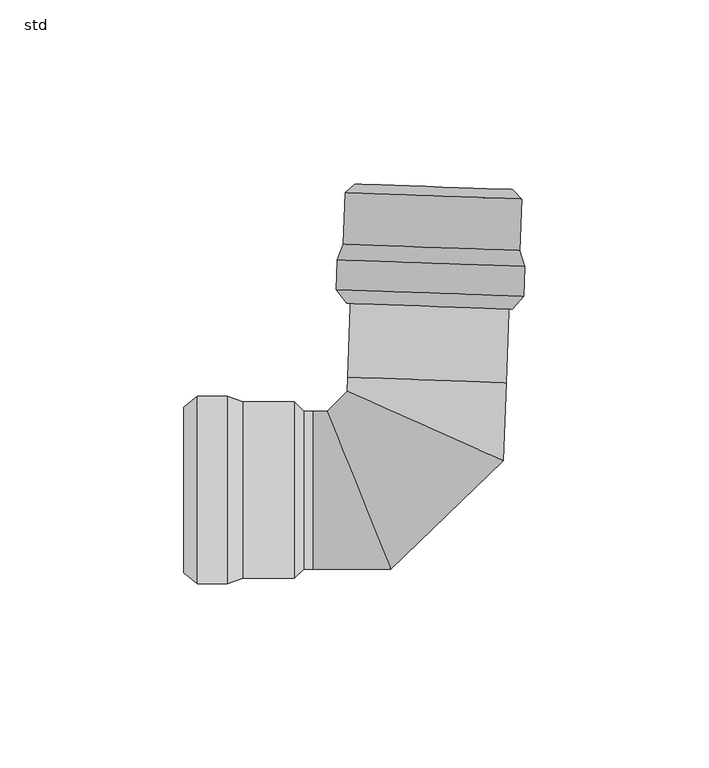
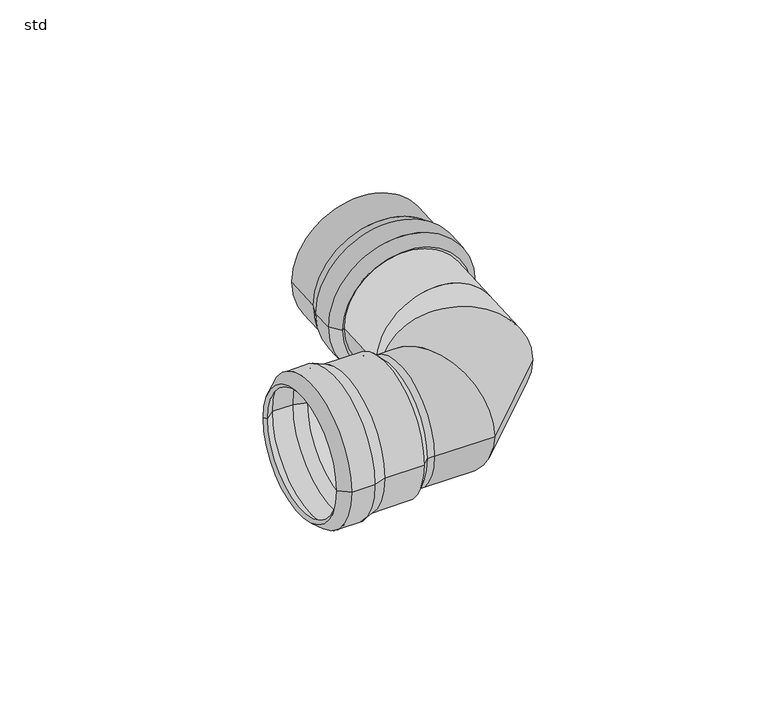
"""IFC4 building model written with IfcOpenShell, lengths in millimetres: pipe fitting geometry, PIF_ST_UN_GM-X angle bend 1a push socket_ACO : std."""

from ifc_helpers import new_model, si_unit, frame, origin, place, context, project, spatial, polyline, circle_curve, ellipse_curve, source, transform, mapped, element, save
from ifc_brep_helpers import plane_surface, cylinder_surface, revolved_surface, advanced_brep


def std_ca759118(model_context):
    return source(origin(), model_context, "Body", "AdvancedBrep", [
        advanced_brep(
        [(27.6425741, 60.7702896, 0.0), (-23.3262171, 62.5541973, 0.0), (-23.6074449, 54.5191173, 0.0), (27.3613463, 52.7352096, 0.0), (26.2938999, 65.1201261, 0.0), (-21.6767271, 66.7990981, 0.0), (-20.7373023, 50.7564212, 0.0), (24.2351605, 49.182385, 0.0), (26.7836001, 79.111559, 0.0), (-21.1870269, 80.7905309, 0.0), (24.3725764, 81.6974756, 0.0), (-18.6011103, 83.2015546, 0.0), (24.2851299, 79.1990055, 0.0), (-18.6885568, 80.7030845, 0.0), (24.7859291, 64.9186305, 0.0), (-20.1865337, 66.4926667, 0.0), (-19.6879448, 80.7380631, 0.0), (25.284518, 79.1640269, 0.0), (26.1346033, 60.568794, 0.0), (-21.8360237, 62.2477659, 0.0), (25.8810197, 53.3235488, 0.0), (-22.0896073, 55.0025208, 0.0), (23.1090431, 50.1732733, 0.0), (-19.5446632, 51.666153, 0.0)],
        [
            (0, 1, circle_curve(frame((2.1581785, 61.6622434, 0.0), z_axis=(-0.034978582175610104, -0.9993880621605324, 0.0), x_axis=(-0.9993880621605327, 0.03497858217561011, 0.0)), 25.5)),
            (1, 2),
            (2, 3, circle_curve(frame((1.8769507, 53.6271634, 0.0), z_axis=(0.034978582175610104, 0.9993880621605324, 0.0), x_axis=(-0.9993880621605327, 0.03497858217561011, 0.0)), 25.5)),
            (3, 0),
            (1, 0, circle_curve(frame((2.1581785, 61.6622434, 0.0), z_axis=(-0.034978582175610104, -0.9993880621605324, 0.0), x_axis=(-0.9993880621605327, 0.03497858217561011, 0.0)), 25.5)),
            (3, 2, circle_curve(frame((1.8769507, 53.6271634, 0.0), z_axis=(0.034978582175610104, 0.9993880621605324, 0.0), x_axis=(-0.9993880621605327, 0.03497858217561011, 0.0)), 25.5)),
            (4, 5, circle_curve(frame((2.3085864, 65.9596121, 0.0), z_axis=(-0.034978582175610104, -0.9993880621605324, 0.0), x_axis=(-0.9993880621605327, 0.03497858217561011, 0.0)), 24.0)),
            (5, 1),
            (0, 4),
            (5, 4, circle_curve(frame((2.3085864, 65.9596121, 0.0), z_axis=(-0.034978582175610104, -0.9993880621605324, 0.0), x_axis=(-0.9993880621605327, 0.03497858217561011, 0.0)), 24.0)),
            (2, 6),
            (6, 7, circle_curve(frame((1.7489291, 49.9694031, 0.0), z_axis=(0.034978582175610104, 0.9993880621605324, 0.0), x_axis=(-0.9993880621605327, 0.03497858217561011, 0.0)), 22.5)),
            (7, 3),
            (7, 6, circle_curve(frame((1.7489291, 49.9694031, 0.0), z_axis=(0.034978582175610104, 0.9993880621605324, 0.0), x_axis=(-0.9993880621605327, 0.03497858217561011, 0.0)), 22.5)),
            (8, 9, circle_curve(frame((2.7982866, 79.951045, 0.0), z_axis=(-0.034978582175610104, -0.9993880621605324, 0.0), x_axis=(-0.9993880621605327, 0.03497858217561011, 0.0)), 24.0)),
            (9, 5),
            (4, 8),
            (9, 8, circle_curve(frame((2.7982866, 79.951045, 0.0), z_axis=(-0.034978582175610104, -0.9993880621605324, 0.0), x_axis=(-0.9993880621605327, 0.03497858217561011, 0.0)), 24.0)),
            (10, 11, circle_curve(frame((2.885733, 82.4495151, 0.0), z_axis=(-0.034978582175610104, -0.9993880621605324, 0.0), x_axis=(-0.9993880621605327, 0.03497858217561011, 0.0)), 21.5)),
            (11, 9),
            (8, 10),
            (11, 10, circle_curve(frame((2.885733, 82.4495151, 0.0), z_axis=(-0.034978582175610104, -0.9993880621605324, 0.0), x_axis=(-0.9993880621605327, 0.03497858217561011, 0.0)), 21.5)),
            (12, 13, circle_curve(frame((2.7982866, 79.951045, 0.0), z_axis=(-0.034978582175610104, -0.9993880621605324, 0.0), x_axis=(-0.9993880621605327, 0.03497858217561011, 0.0)), 21.5)),
            (13, 11),
            (10, 12),
            (13, 12, circle_curve(frame((2.7982866, 79.951045, 0.0), z_axis=(-0.034978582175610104, -0.9993880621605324, 0.0), x_axis=(-0.9993880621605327, 0.03497858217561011, 0.0)), 21.5)),
            (14, 15, circle_curve(frame((2.2996977, 65.7056486, 0.0), z_axis=(-0.034978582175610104, -0.9993880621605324, 0.0), x_axis=(-0.9993880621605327, 0.03497858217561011, 0.0)), 22.5)),
            (15, 16),
            (16, 17, circle_curve(frame((2.7982866, 79.951045, 0.0), z_axis=(0.034978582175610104, 0.9993880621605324, 0.0), x_axis=(-0.9993880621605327, 0.03497858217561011, 0.0)), 22.5)),
            (17, 14),
            (15, 14, circle_curve(frame((2.2996977, 65.7056486, 0.0), z_axis=(-0.034978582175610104, -0.9993880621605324, 0.0), x_axis=(-0.9993880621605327, 0.03497858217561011, 0.0)), 22.5)),
            (17, 16, circle_curve(frame((2.7982866, 79.951045, 0.0), z_axis=(0.034978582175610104, 0.9993880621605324, 0.0), x_axis=(-0.9993880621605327, 0.03497858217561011, 0.0)), 22.5)),
            (18, 19, circle_curve(frame((2.1492898, 61.4082799, 0.0), z_axis=(-0.034978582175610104, -0.9993880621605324, 0.0), x_axis=(-0.9993880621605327, 0.03497858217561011, 0.0)), 24.0)),
            (19, 15),
            (14, 18),
            (19, 18, circle_curve(frame((2.1492898, 61.4082799, 0.0), z_axis=(-0.034978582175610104, -0.9993880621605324, 0.0), x_axis=(-0.9993880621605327, 0.03497858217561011, 0.0)), 24.0)),
            (20, 21, circle_curve(frame((1.8957062, 54.1630348, 0.0), z_axis=(-0.034978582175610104, -0.9993880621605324, 0.0), x_axis=(-0.9993880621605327, 0.03497858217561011, 0.0)), 24.0)),
            (21, 19),
            (18, 20),
            (21, 20, circle_curve(frame((1.8957062, 54.1630348, 0.0), z_axis=(-0.034978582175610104, -0.9993880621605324, 0.0), x_axis=(-0.9993880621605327, 0.03497858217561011, 0.0)), 24.0)),
            (22, 23, circle_curve(frame((1.78219, 50.9197132, 0.0), z_axis=(-0.034978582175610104, -0.9993880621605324, 0.0), x_axis=(-0.9993880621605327, 0.03497858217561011, 0.0)), 21.3399118)),
            (23, 21),
            (20, 22),
            (23, 22, circle_curve(frame((1.78219, 50.9197132, 0.0), z_axis=(-0.034978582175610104, -0.9993880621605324, 0.0), x_axis=(-0.9993880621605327, 0.03497858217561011, 0.0)), 21.3399118)),
            (6, 23),
            (22, 7),
            (16, 13),
            (12, 17),
        ],
        [
            cylinder_surface(frame((1.8663028, 53.322938, 0.0), z_axis=(0.034978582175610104, 0.9993880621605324, 0.0), x_axis=(-0.9993880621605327, 0.03497858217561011, 0.0)), 25.5),
            revolved_surface(polyline([(-23.3262171, 62.5541973, 0.0), (-21.6767271, 66.7990981, 0.0)]), (1.8663028, 53.322938, 0.0), (0.034978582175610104, 0.9993880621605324, 0.0)),
            revolved_surface(polyline([(-20.7373023, 50.7564212, 0.0), (-23.6074449, 54.5191173, 0.0)]), (1.8663028, 53.322938, 0.0), (0.034978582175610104, 0.9993880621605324, 0.0)),
            cylinder_surface(frame((1.8663028, 53.322938, 0.0), z_axis=(0.034978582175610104, 0.9993880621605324, 0.0), x_axis=(-0.9993880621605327, 0.03497858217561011, 0.0)), 24.0),
            revolved_surface(polyline([(-21.1870269, 80.7905309, 0.0), (-18.6011103, 83.2015546, 0.0)]), (1.8663028, 53.322938, 0.0), (0.034978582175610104, 0.9993880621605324, 0.0)),
            revolved_surface(polyline([(-18.601110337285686, 83.20155463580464, 0.0), (-18.68855679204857, 80.70308449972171, 0.0)]), (1.8663028, 53.322938, 0.0), (0.034978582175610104, 0.9993880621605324, 0.0)),
            revolved_surface(polyline([(-19.687944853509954, 80.73806310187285, 0.0), (-20.18653372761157, 66.49266669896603, 0.0)]), (1.8663028, 53.322938, 0.0), (0.034978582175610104, 0.9993880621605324, 0.0)),
            revolved_surface(polyline([(-20.1865337, 66.4926667, 0.0), (-21.8360237, 62.2477659, 0.0)]), (1.8663028, 53.322938, 0.0), (0.034978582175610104, 0.9993880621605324, 0.0)),
            revolved_surface(polyline([(-21.83602372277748, 62.2477659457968, 0.0), (-22.08960730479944, 55.002520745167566, 0.0)]), (1.8663028, 53.322938, 0.0), (0.034978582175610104, 0.9993880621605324, 0.0)),
            revolved_surface(polyline([(-22.0896073, 55.0025208, 0.0), (-19.5446632, 51.666153, 0.0)]), (1.8663028, 53.322938, 0.0), (0.034978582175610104, 0.9993880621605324, 0.0)),
            revolved_surface(polyline([(-19.5446632, 51.666153, 0.0), (-20.7373023, 50.7564212, 0.0)]), (1.8663028, 53.322938, 0.0), (0.034978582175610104, 0.9993880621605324, 0.0)),
            plane_surface(frame((2.7982866, 79.951045, 0.0), z_axis=(-0.034978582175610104, -0.9993880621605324, 0.0), x_axis=(-0.9993880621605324, 0.034978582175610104, 0.0))),
        ],
        [
            (0, [[1, 2, 3, 4]]),
            (0, [[5, -4, 6, -2]]),
            (1, [[7, 8, -1, 9]]),
            (1, [[10, -9, -5, -8]]),
            (2, [[-3, 11, 12, 13]]),
            (2, [[-6, -13, 14, -11]]),
            (3, [[15, 16, -7, 17]]),
            (3, [[18, -17, -10, -16]]),
            (4, [[19, 20, -15, 21]]),
            (4, [[22, -21, -18, -20]]),
            (5, [[23, 24, -19, 25]]),
            (5, [[26, -25, -22, -24]]),
            (6, [[27, 28, 29, 30]]),
            (6, [[31, -30, 32, -28]]),
            (7, [[33, 34, -27, 35]]),
            (7, [[36, -35, -31, -34]]),
            (8, [[37, 38, -33, 39]]),
            (8, [[40, -39, -36, -38]]),
            (9, [[41, 42, -37, 43]]),
            (9, [[44, -43, -40, -42]]),
            (10, [[-12, 45, -41, 46]]),
            (10, [[-14, -46, -44, -45]]),
            (11, [[-29, 47, -23, 48]]),
            (11, [[-32, -48, -26, -47]]),
        ],
    ),
        advanced_brep(
        [(-53.3, 25.5, 0.0), (-53.3, -25.5, 0.0), (-61.34, -25.5, 0.0), (-61.34, 25.5, 0.0), (-49.0, 24.0, 0.0), (-49.0, -24.0, 0.0), (-65.0, -22.5, 0.0), (-65.0, 22.5, 0.0), (-35.0, 24.0, 0.0), (-35.0, -24.0, 0.0), (-32.5, 21.5, 0.0), (-32.5, -21.5, 0.0), (-35.0, 21.5, 0.0), (-35.0, -21.5, 0.0), (-49.254119, 22.5, 0.0), (-49.254119, -22.5, 0.0), (-35.0, -22.5, 0.0), (-35.0, 22.5, 0.0), (-53.554119, 24.0, 0.0), (-53.554119, -24.0, 0.0), (-60.8038005, 24.0, 0.0), (-60.8038005, -24.0, 0.0), (-64.0491081, 21.3399118, 0.0), (-64.0491081, -21.3399118, 0.0)],
        [
            (0, 1, circle_curve(frame((-53.3, 0.0, 0.0), z_axis=(-1.0, 0.0, 0.0), x_axis=(0.0, -1.0, 0.0)), 25.5)),
            (1, 2),
            (2, 3, circle_curve(frame((-61.34, 0.0, 0.0), z_axis=(1.0, 0.0, 0.0), x_axis=(0.0, -1.0, 0.0)), 25.5)),
            (3, 0),
            (1, 0, circle_curve(frame((-53.3, 0.0, 0.0), z_axis=(-1.0, 0.0, 0.0), x_axis=(0.0, -1.0, 0.0)), 25.5)),
            (3, 2, circle_curve(frame((-61.34, 0.0, 0.0), z_axis=(1.0, 0.0, 0.0), x_axis=(0.0, -1.0, 0.0)), 25.5)),
            (4, 5, circle_curve(frame((-49.0, 0.0, 0.0), z_axis=(-1.0, 0.0, 0.0), x_axis=(0.0, -1.0, 0.0)), 24.0)),
            (5, 1),
            (0, 4),
            (5, 4, circle_curve(frame((-49.0, 0.0, 0.0), z_axis=(-1.0, 0.0, 0.0), x_axis=(0.0, -1.0, 0.0)), 24.0)),
            (2, 6),
            (6, 7, circle_curve(frame((-65.0, 0.0, 0.0), z_axis=(1.0, 0.0, 0.0), x_axis=(0.0, -1.0, 0.0)), 22.5)),
            (7, 3),
            (7, 6, circle_curve(frame((-65.0, 0.0, 0.0), z_axis=(1.0, 0.0, 0.0), x_axis=(0.0, -1.0, 0.0)), 22.5)),
            (8, 9, circle_curve(frame((-35.0, 0.0, 0.0), z_axis=(-1.0, 0.0, 0.0), x_axis=(0.0, -1.0, 0.0)), 24.0)),
            (9, 5),
            (4, 8),
            (9, 8, circle_curve(frame((-35.0, 0.0, 0.0), z_axis=(-1.0, 0.0, 0.0), x_axis=(0.0, -1.0, 0.0)), 24.0)),
            (10, 11, circle_curve(frame((-32.5, 0.0, 0.0), z_axis=(-1.0, 0.0, 0.0), x_axis=(0.0, -1.0, 0.0)), 21.5)),
            (11, 9),
            (8, 10),
            (11, 10, circle_curve(frame((-32.5, 0.0, 0.0), z_axis=(-1.0, 0.0, 0.0), x_axis=(0.0, -1.0, 0.0)), 21.5)),
            (12, 13, circle_curve(frame((-35.0, 0.0, 0.0), z_axis=(-1.0, 0.0, 0.0), x_axis=(0.0, -1.0, 0.0)), 21.5)),
            (13, 11),
            (10, 12),
            (13, 12, circle_curve(frame((-35.0, 0.0, 0.0), z_axis=(-1.0, 0.0, 0.0), x_axis=(0.0, -1.0, 0.0)), 21.5)),
            (14, 15, circle_curve(frame((-49.254119, 0.0, 0.0), z_axis=(-1.0, 0.0, 0.0), x_axis=(0.0, -1.0, 0.0)), 22.5)),
            (15, 16),
            (16, 17, circle_curve(frame((-35.0, 0.0, 0.0), z_axis=(1.0, 0.0, 0.0), x_axis=(0.0, -1.0, 0.0)), 22.5)),
            (17, 14),
            (15, 14, circle_curve(frame((-49.254119, 0.0, 0.0), z_axis=(-1.0, 0.0, 0.0), x_axis=(0.0, -1.0, 0.0)), 22.5)),
            (17, 16, circle_curve(frame((-35.0, 0.0, 0.0), z_axis=(1.0, 0.0, 0.0), x_axis=(0.0, -1.0, 0.0)), 22.5)),
            (18, 19, circle_curve(frame((-53.554119, 0.0, 0.0), z_axis=(-1.0, 0.0, 0.0), x_axis=(0.0, -1.0, 0.0)), 24.0)),
            (19, 15),
            (14, 18),
            (19, 18, circle_curve(frame((-53.554119, 0.0, 0.0), z_axis=(-1.0, 0.0, 0.0), x_axis=(0.0, -1.0, 0.0)), 24.0)),
            (20, 21, circle_curve(frame((-60.8038005, 0.0, 0.0), z_axis=(-1.0, 0.0, 0.0), x_axis=(0.0, -1.0, 0.0)), 24.0)),
            (21, 19),
            (18, 20),
            (21, 20, circle_curve(frame((-60.8038005, 0.0, 0.0), z_axis=(-1.0, 0.0, 0.0), x_axis=(0.0, -1.0, 0.0)), 24.0)),
            (22, 23, circle_curve(frame((-64.0491081, 0.0, 0.0), z_axis=(-1.0, 0.0, 0.0), x_axis=(0.0, -1.0, 0.0)), 21.3399118)),
            (23, 21),
            (20, 22),
            (23, 22, circle_curve(frame((-64.0491081, 0.0, 0.0), z_axis=(-1.0, 0.0, 0.0), x_axis=(0.0, -1.0, 0.0)), 21.3399118)),
            (6, 23),
            (22, 7),
            (16, 13),
            (12, 17),
        ],
        [
            cylinder_surface(frame((-61.6444117, 0.0, 0.0), z_axis=(1.0, 0.0, 0.0), x_axis=(0.0, -1.0, 0.0)), 25.5),
            revolved_surface(polyline([(-53.3, -25.5, 0.0), (-49.0, -24.0, 0.0)]), (-61.6444117, 0.0, 0.0), (1.0, 0.0, 0.0)),
            revolved_surface(polyline([(-65.0, -22.5, 0.0), (-61.34, -25.5, 0.0)]), (-61.6444117, 0.0, 0.0), (1.0, 0.0, 0.0)),
            cylinder_surface(frame((-61.6444117, 0.0, 0.0), z_axis=(1.0, 0.0, 0.0), x_axis=(0.0, -1.0, 0.0)), 24.0),
            revolved_surface(polyline([(-35.0, -24.0, 0.0), (-32.5, -21.5, 0.0)]), (-61.6444117, 0.0, 0.0), (1.0, 0.0, 0.0)),
            revolved_surface(polyline([(-32.5, -21.5, 0.0), (-35.0, -21.5, 0.0)]), (-61.6444117, 0.0, 0.0), (1.0, 0.0, 0.0)),
            revolved_surface(polyline([(-35.0, -22.5, 0.0), (-49.254119, -22.5, 0.0)]), (-61.6444117, 0.0, 0.0), (1.0, 0.0, 0.0)),
            revolved_surface(polyline([(-49.254119, -22.5, 0.0), (-53.554119, -24.0, 0.0)]), (-61.6444117, 0.0, 0.0), (1.0, 0.0, 0.0)),
            revolved_surface(polyline([(-53.554119, -24.0, 0.0), (-60.8038005, -24.0, 0.0)]), (-61.6444117, 0.0, 0.0), (1.0, 0.0, 0.0)),
            revolved_surface(polyline([(-60.8038005, -24.0, 0.0), (-64.0491081, -21.3399118, 0.0)]), (-61.6444117, 0.0, 0.0), (1.0, 0.0, 0.0)),
            revolved_surface(polyline([(-64.0491081, -21.3399118, 0.0), (-65.0, -22.5, 0.0)]), (-61.6444117, 0.0, 0.0), (1.0, 0.0, 0.0)),
            plane_surface(frame((-35.0, 0.0, 0.0), z_axis=(-1.0, 0.0, 0.0), x_axis=(0.0, -1.0, 0.0))),
        ],
        [
            (0, [[1, 2, 3, 4]]),
            (0, [[5, -4, 6, -2]]),
            (1, [[7, 8, -1, 9]]),
            (1, [[10, -9, -5, -8]]),
            (2, [[-3, 11, 12, 13]]),
            (2, [[-6, -13, 14, -11]]),
            (3, [[15, 16, -7, 17]]),
            (3, [[18, -17, -10, -16]]),
            (4, [[19, 20, -15, 21]]),
            (4, [[22, -21, -18, -20]]),
            (5, [[23, 24, -19, 25]]),
            (5, [[26, -25, -22, -24]]),
            (6, [[27, 28, 29, 30]]),
            (6, [[31, -30, 32, -28]]),
            (7, [[33, 34, -27, 35]]),
            (7, [[36, -35, -31, -34]]),
            (8, [[37, 38, -33, 39]]),
            (8, [[40, -39, -36, -38]]),
            (9, [[41, 42, -37, 43]]),
            (9, [[44, -43, -40, -42]]),
            (10, [[-12, 45, -41, 46]]),
            (10, [[-14, -46, -44, -45]]),
            (11, [[-29, 47, -23, 48]]),
            (11, [[-32, -48, -26, -47]]),
        ],
    ),
        advanced_brep(
        [(-35.0, -21.5, 0.0), (-35.0, 21.5, 0.0), (-30.0, 21.5, 0.0), (-30.0, -21.5, 0.0), (-18.6885568, 80.7030845, 0.0), (24.2851299, 79.1990055, 0.0), (22.5362008, 29.2296023, 0.0), (-20.4374859, 30.7336814, 0.0), (-8.7622099, -21.5, 0.0), (-26.134348, 21.5, 0.0), (21.793333, 8.0048084, 0.0), (-20.5727009, 26.8703949, 0.0)],
        [
            (0, 1, circle_curve(frame((-35.0, 0.0, 0.0), z_axis=(-1.0, 0.0, 0.0), x_axis=(0.0, 1.0, 0.0)), 21.5)),
            (1, 0, circle_curve(frame((-35.0, 0.0, 0.0), z_axis=(-1.0, 0.0, 0.0), x_axis=(0.0, 1.0, 0.0)), 21.5)),
            (1, 2),
            (2, 3, circle_curve(frame((-30.0, 0.0, 0.0), z_axis=(-1.0, 0.0, 0.0), x_axis=(0.0, 1.0, 0.0)), 21.5)),
            (3, 0),
            (3, 2, circle_curve(frame((-30.0, 0.0, 0.0), z_axis=(-1.0, 0.0, 0.0), x_axis=(0.0, 1.0, 0.0)), 21.5)),
            (4, 5, circle_curve(frame((2.7982866, 79.951045, 0.0), z_axis=(0.0349785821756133, 0.9993880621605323, 0.0), x_axis=(0.9993880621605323, -0.0349785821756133, 0.0)), 21.5)),
            (5, 4, circle_curve(frame((2.7982866, 79.951045, 0.0), z_axis=(0.0349785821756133, 0.9993880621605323, 0.0), x_axis=(0.9993880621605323, -0.0349785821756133, 0.0)), 21.5)),
            (5, 6),
            (6, 7, circle_curve(frame((1.0493575, 29.9816419, 0.0), z_axis=(0.0349785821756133, 0.9993880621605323, 0.0), x_axis=(0.9993880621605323, -0.0349785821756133, 0.0)), 21.5)),
            (7, 4),
            (7, 6, circle_curve(frame((1.0493575, 29.9816419, 0.0), z_axis=(0.0349785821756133, 0.9993880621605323, 0.0), x_axis=(0.9993880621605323, -0.0349785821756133, 0.0)), 21.5)),
            (3, 8),
            (8, 9, ellipse_curve(frame((-17.4482789, 0.0, 0.0), z_axis=(-0.9271912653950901, -0.37458825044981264, 0.0), x_axis=(-0.3745882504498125, 0.92719126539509, 0.0)), 23.1883116, 21.5)),
            (9, 2),
            (9, 8, ellipse_curve(frame((-17.4482789, 0.0, 0.0), z_axis=(-0.9271912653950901, -0.37458825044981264, 0.0), x_axis=(-0.3745882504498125, 0.92719126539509, 0.0)), 23.1883116, 21.5)),
            (8, 10),
            (10, 11, ellipse_curve(frame((0.6103161, 17.4376017, 0.0), z_axis=(-0.40679086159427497, -0.913521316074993, 0.0), x_axis=(-0.9135213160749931, 0.40679086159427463, 0.0)), 23.1883116, 21.5)),
            (11, 9),
            (11, 10, ellipse_curve(frame((0.6103161, 17.4376017, 0.0), z_axis=(-0.40679086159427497, -0.913521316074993, 0.0), x_axis=(-0.9135213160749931, 0.40679086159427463, 0.0)), 23.1883116, 21.5)),
            (10, 6),
            (7, 11),
        ],
        [
            plane_surface(frame((-35.0, 21.5, 0.0), z_axis=(-1.0, 0.0, 0.0), x_axis=(0.0, 0.0, -1.0))),
            cylinder_surface(frame((-35.0, 0.0, 0.0), z_axis=(1.0, 0.0, 0.0), x_axis=(0.0, 1.0, 0.0)), 21.5),
            plane_surface(frame((24.2851299, 79.1990055, 0.0), z_axis=(0.0349785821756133, 0.9993880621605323, 0.0), x_axis=(0.0, 0.0, -1.0))),
            cylinder_surface(frame((2.7982866, 79.951045, 0.0), z_axis=(-0.0349785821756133, -0.9993880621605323, 0.0), x_axis=(0.9993880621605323, -0.0349785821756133, 0.0)), 21.5),
            cylinder_surface(frame((-30.0, 0.0, 0.0), z_axis=(-1.0, 0.0, 0.0), x_axis=(0.0, 1.0, 0.0)), 21.5),
            cylinder_surface(frame((-17.4482789, 0.0, 0.0), z_axis=(-0.7193672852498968, -0.6946299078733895, 0.0), x_axis=(-0.6946299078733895, 0.7193672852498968, 0.0)), 21.5),
            cylinder_surface(frame((0.6103161, 17.4376017, 0.0), z_axis=(-0.03497858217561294, -0.9993880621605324, 0.0), x_axis=(-0.9993880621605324, 0.03497858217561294, 0.0)), 21.5),
        ],
        [
            (0, [[1, 2]]),
            (1, [[-2, 3, 4, 5]]),
            (1, [[-1, -5, 6, -3]]),
            (2, [[7, 8]]),
            (3, [[-8, 9, 10, 11]]),
            (3, [[-7, -11, 12, -9]]),
            (4, [[13, 14, 15, -6]]),
            (4, [[-13, -4, -15, 16]]),
            (5, [[-14, 17, 18, 19]]),
            (5, [[-16, -19, 20, -17]]),
            (6, [[-18, 21, -12, 22]]),
            (6, [[-20, -22, -10, -21]]),
        ],
    ),
    ])


if __name__ == "__main__":
    model = new_model("IFC4")
    model_context = context("Model", 3, world=origin())
    ifc_project = project(units=[si_unit("LENGTHUNIT", "METRE", prefix="MILLI")], contexts=[model_context])
    site = spatial("IfcSite", under=ifc_project)
    building = spatial("IfcBuilding", under=site)
    placement = place(None, origin())
    std_shape = std_ca759118(model_context)
    element("IfcPipeFitting", 1, ObjectType="PIF_ST_UN_GM-X angle bend 1a push socket_ACO : std", at=placement, inside=building, context=model_context, shape_type="MappedRepresentation", body=[
        mapped(std_shape, transform((0.0, 0.0, 0.0), x_axis=(1.0, 0.0, 0.0), y_axis=(0.0, 1.0, 0.0), z_axis=(0.0, 0.0, 1.0))),
    ])
    save(model, "model.ifc")
